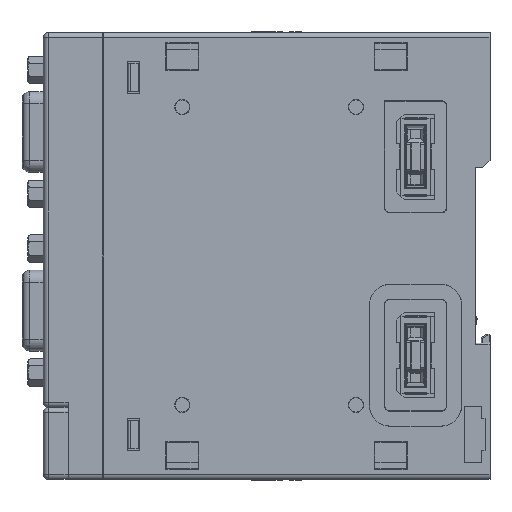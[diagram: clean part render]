
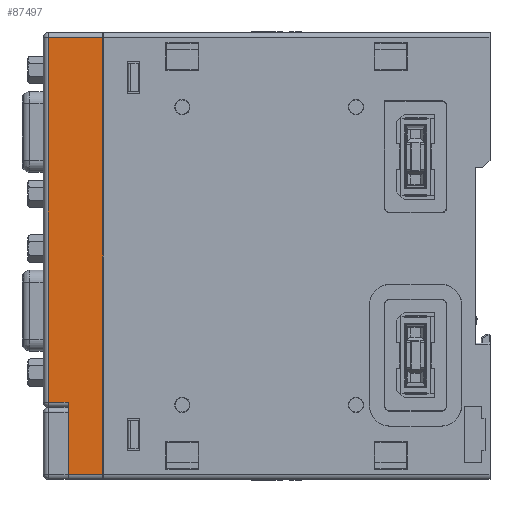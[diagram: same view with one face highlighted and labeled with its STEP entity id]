
A CAD part, left-side view. The second image highlights one B-rep face of the part: STEP entity #87497.
In plain terms, the highlighted planar face has unit normal (-1, 0, 0).
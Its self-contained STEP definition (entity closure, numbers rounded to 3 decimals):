
#2511=DIRECTION('',(0.,0.,1.));
#2512=VECTOR('',#2511,88.);
#2513=CARTESIAN_POINT('',(-13.3,78.,-44.));
#2514=LINE('',#2513,#2512);
#2765=DIRECTION('',(0.,0.,-1.));
#2766=VECTOR('',#2765,14.5);
#2767=CARTESIAN_POINT('',(-13.3,85.,-29.5));
#2768=LINE('',#2767,#2766);
#22890=DIRECTION('',(0.,1.,0.));
#22891=VECTOR('',#22890,4.);
#22892=CARTESIAN_POINT('',(-13.3,85.,-29.5));
#22893=LINE('',#22892,#22891);
#22897=DIRECTION('',(0.,0.,1.));
#22898=VECTOR('',#22897,73.5);
#22899=CARTESIAN_POINT('',(-13.3,89.,-29.5));
#22900=LINE('',#22899,#22898);
#22904=DIRECTION('',(0.,-1.,0.));
#22905=VECTOR('',#22904,11.);
#22906=CARTESIAN_POINT('',(-13.3,89.,44.));
#22907=LINE('',#22906,#22905);
#22911=DIRECTION('',(0.,-1.,0.));
#22912=VECTOR('',#22911,7.);
#22913=CARTESIAN_POINT('',(-13.3,85.,-44.));
#22914=LINE('',#22913,#22912);
#53726=CARTESIAN_POINT('',(-13.3,78.,-44.));
#53728=VERTEX_POINT('',#53726);
#53732=CARTESIAN_POINT('',(-13.3,85.,-44.));
#53733=VERTEX_POINT('',#53732);
#53743=CARTESIAN_POINT('',(-13.3,78.,44.));
#53745=VERTEX_POINT('',#53743);
#53750=CARTESIAN_POINT('',(-13.3,89.,44.));
#53752=VERTEX_POINT('',#53750);
#53762=CARTESIAN_POINT('',(-13.3,85.,-29.5));
#53763=CARTESIAN_POINT('',(-13.3,89.,-29.5));
#53764=VERTEX_POINT('',#53762);
#53765=VERTEX_POINT('',#53763);
#87483=CARTESIAN_POINT('',(-13.3,78.,-45.));
#87484=DIRECTION('',(-1.,0.,0.));
#87485=DIRECTION('',(0.,0.,1.));
#87486=AXIS2_PLACEMENT_3D('',#87483,#87484,#87485);
#87487=PLANE('',#87486);
#87488=ORIENTED_EDGE('',*,*,#87477,.T.);
#87489=ORIENTED_EDGE('',*,*,#87452,.T.);
#87491=ORIENTED_EDGE('',*,*,#87490,.T.);
#87492=ORIENTED_EDGE('',*,*,#63988,.F.);
#87493=ORIENTED_EDGE('',*,*,#64047,.F.);
#87494=ORIENTED_EDGE('',*,*,#64137,.F.);
#87495=EDGE_LOOP('',(#87488,#87489,#87491,#87492,#87493,#87494));
#87496=FACE_OUTER_BOUND('',#87495,.F.);
#87497=ADVANCED_FACE('',(#87496),#87487,.T.);
#63988=EDGE_CURVE('',#53728,#53745,#2514,.T.);
#64047=EDGE_CURVE('',#53733,#53728,#22914,.T.);
#64137=EDGE_CURVE('',#53764,#53733,#2768,.T.);
#87452=EDGE_CURVE('',#53765,#53752,#22900,.T.);
#87477=EDGE_CURVE('',#53764,#53765,#22893,.T.);
#87490=EDGE_CURVE('',#53752,#53745,#22907,.T.);
